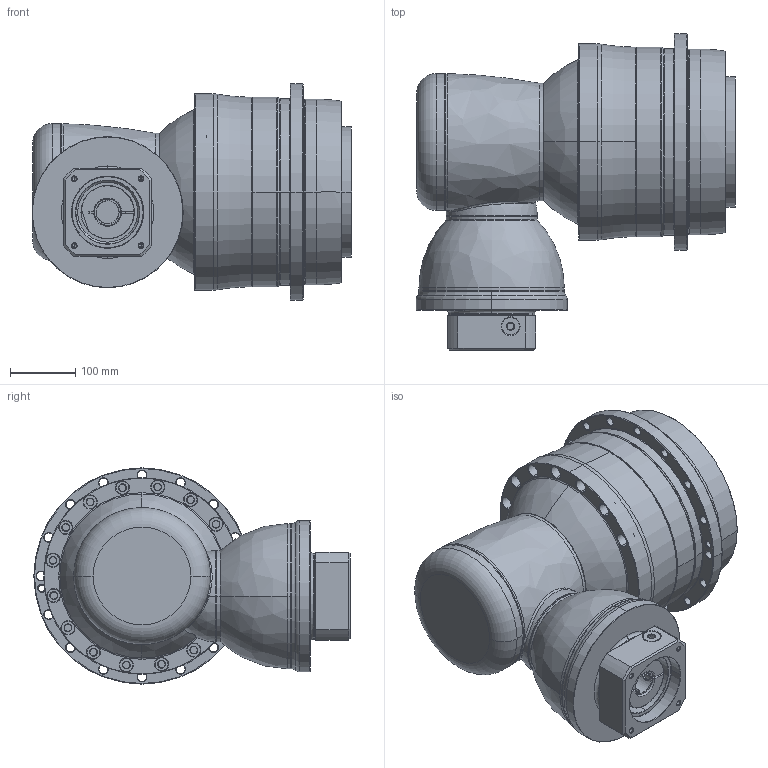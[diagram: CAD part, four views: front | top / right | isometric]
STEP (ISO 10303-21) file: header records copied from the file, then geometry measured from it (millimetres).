
FILE_DESCRIPTION((''),'2;1');
FILE_NAME('AHKA285_3ST_35-P0409800101_ASM','2016-12-06T',('d01943'),(''),'PRO/ENGINEER BY PARAMETRIC TECHNOLOGY CORPORATION, 2008410','PRO/ENGINEER BY PARAMETRIC TECHNOLOGY CORPORATION, 2008410','');
FILE_SCHEMA(('CONFIG_CONTROL_DESIGN'));
Length unit declared in the file: millimetre
Products named in the file (12): P1008600002; P1832800001; P0278800003; P0359800003; P1315600001; P1007600001; P1318600101; P0409800101; P0503800012; P0912601001; 21711422019; AHKA285_3ST_35-P0409800101_ASM
Assembly tree (11 placements, depth 2):
  AHKA285_3ST_35-P0409800101_ASM
    P1008600002
    P1832800001
    P0278800003
    P0359800003
    P1315600001
    P1007600001
    P1318600101
    P0409800101
    P0503800012
    P0912601001
    21711422019
Bounding box: 491 x 485.5 x 332 mm (x, y, z)
Volume: 21959119.2 mm3; surface area: 1622697.2 mm2
Topology: 12 solids, 12 shells, 1076 faces, 2417 edges, 1394 vertices
Faces by surface type: cone 382, cylinder 374, plane 145, torus 136, bspline 37, sphere 2
Entity records: 36503 total; most frequent: CARTESIAN_POINT 11898, DIRECTION 5672, ORIENTED_EDGE 4694, AXIS2_PLACEMENT_3D 2422, EDGE_CURVE 2347, VERTEX_POINT 1394, CIRCLE 1360, EDGE_LOOP 1271
